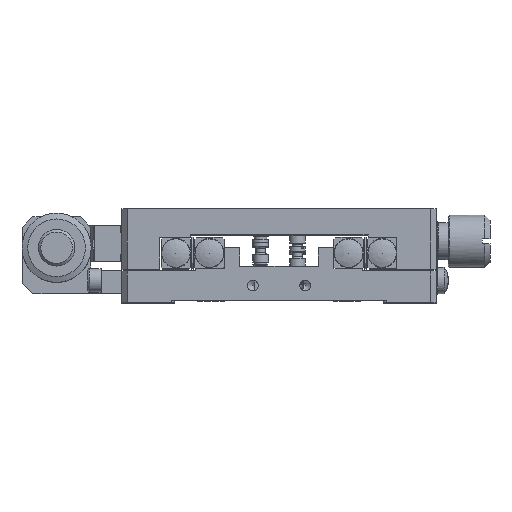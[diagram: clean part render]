
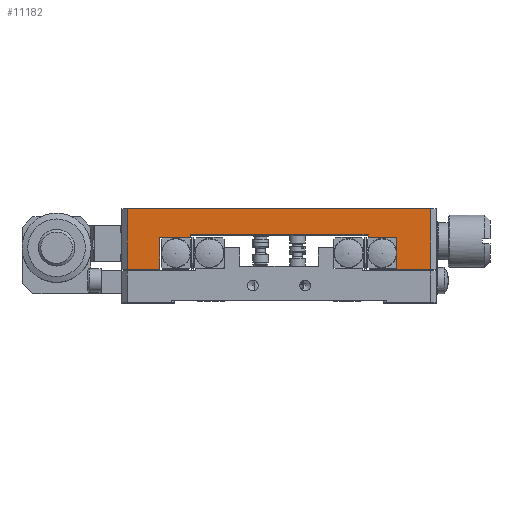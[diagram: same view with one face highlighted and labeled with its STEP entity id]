
A CAD part, top view. The second image highlights one B-rep face of the part: STEP entity #11182.
In plain terms, the highlighted planar face has unit normal (0, 0, 1).
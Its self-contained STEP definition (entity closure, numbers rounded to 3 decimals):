
#1265 = DIRECTION ( 'NONE',  ( -1., 0., 0. ) ) ;
#1424 = EDGE_CURVE ( 'NONE', #54770, #88109, #53383, .T. ) ;
#2008 = VERTEX_POINT ( 'NONE', #53607 ) ;
#2755 = DIRECTION ( 'NONE',  ( -1., 0., 0. ) ) ;
#2947 = VERTEX_POINT ( 'NONE', #25930 ) ;
#3375 = CARTESIAN_POINT ( 'NONE',  ( -46.862, 74.103, 68.814 ) ) ;
#4173 = EDGE_CURVE ( 'NONE', #7642, #2008, #12103, .T. ) ;
#4680 = CARTESIAN_POINT ( 'NONE',  ( -1.562, 74.103, 68.814 ) ) ;
#6482 = VECTOR ( 'NONE', #30464, 1000. ) ;
#7385 = LINE ( 'NONE', #76741, #37474 ) ;
#7642 = VERTEX_POINT ( 'NONE', #83108 ) ;
#8235 = EDGE_CURVE ( 'NONE', #48566, #38381, #78314, .T. ) ;
#9044 = EDGE_CURVE ( 'NONE', #2947, #17941, #50481, .T. ) ;
#9967 = ORIENTED_EDGE ( 'NONE', *, *, #83038, .T. ) ;
#11182 = ADVANCED_FACE ( 'NONE', ( #28735 ), #21521, .F. ) ;
#12103 = LINE ( 'NONE', #25190, #34819 ) ;
#14279 = ORIENTED_EDGE ( 'NONE', *, *, #86530, .T. ) ;
#14814 = DIRECTION ( 'NONE',  ( 0., -1., 0. ) ) ;
#15692 = VECTOR ( 'NONE', #72035, 1000. ) ;
#15970 = CARTESIAN_POINT ( 'NONE',  ( -41.062, 74.603, 68.814 ) ) ;
#17941 = VERTEX_POINT ( 'NONE', #78485 ) ;
#20236 = CARTESIAN_POINT ( 'NONE',  ( -7.062, 74.103, 68.814 ) ) ;
#21521 = PLANE ( 'NONE',  #38203 ) ;
#21591 = LINE ( 'NONE', #42822, #36122 ) ;
#21785 = EDGE_CURVE ( 'NONE', #83646, #36739, #60676, .T. ) ;
#22724 = EDGE_CURVE ( 'NONE', #83646, #7642, #71885, .T. ) ;
#25190 = CARTESIAN_POINT ( 'NONE',  ( -1.562, 68.003, 68.814 ) ) ;
#25930 = CARTESIAN_POINT ( 'NONE',  ( 4.938, 68.003, 68.814 ) ) ;
#27071 = VECTOR ( 'NONE', #38934, 1000. ) ;
#28735 = FACE_OUTER_BOUND ( 'NONE', #59503, .T. ) ;
#30464 = DIRECTION ( 'NONE',  ( 1., 0., 0. ) ) ;
#31393 = CARTESIAN_POINT ( 'NONE',  ( -7.062, 74.603, 68.814 ) ) ;
#31483 = ORIENTED_EDGE ( 'NONE', *, *, #48100, .T. ) ;
#33806 = ORIENTED_EDGE ( 'NONE', *, *, #84282, .F. ) ;
#34819 = VECTOR ( 'NONE', #39211, 1000. ) ;
#36122 = VECTOR ( 'NONE', #14814, 1000. ) ;
#36500 = CARTESIAN_POINT ( 'NONE',  ( -41.062, 74.103, 68.814 ) ) ;
#36739 = VERTEX_POINT ( 'NONE', #31393 ) ;
#36954 = LINE ( 'NONE', #36500, #15692 ) ;
#37474 = VECTOR ( 'NONE', #76303, 1000. ) ;
#37684 = CARTESIAN_POINT ( 'NONE',  ( -1.562, 74.103, 68.814 ) ) ;
#38203 = AXIS2_PLACEMENT_3D ( 'NONE', #57129, #50396, #1265 ) ;
#38381 = VERTEX_POINT ( 'NONE', #75234 ) ;
#38620 = ORIENTED_EDGE ( 'NONE', *, *, #82152, .F. ) ;
#38934 = DIRECTION ( 'NONE',  ( 1., 0., 0. ) ) ;
#39211 = DIRECTION ( 'NONE',  ( 0., -1., 0. ) ) ;
#39411 = DIRECTION ( 'NONE',  ( 1., 0., 0. ) ) ;
#40599 = VECTOR ( 'NONE', #2755, 1000. ) ;
#42820 = DIRECTION ( 'NONE',  ( 1., 0., 0. ) ) ;
#42822 = CARTESIAN_POINT ( 'NONE',  ( -46.862, 74.103, 68.814 ) ) ;
#45515 = VERTEX_POINT ( 'NONE', #60743 ) ;
#45701 = CARTESIAN_POINT ( 'NONE',  ( 5.938, 68.003, 68.814 ) ) ;
#46324 = DIRECTION ( 'NONE',  ( 0., 1., 0. ) ) ;
#48100 = EDGE_CURVE ( 'NONE', #2008, #2947, #73554, .T. ) ;
#48566 = VERTEX_POINT ( 'NONE', #79746 ) ;
#50396 = DIRECTION ( 'NONE',  ( 0., 0., -1. ) ) ;
#50481 = LINE ( 'NONE', #78777, #76875 ) ;
#50995 = LINE ( 'NONE', #77098, #40599 ) ;
#52468 = ORIENTED_EDGE ( 'NONE', *, *, #9044, .T. ) ;
#53343 = CARTESIAN_POINT ( 'NONE',  ( -41.062, 74.603, 68.814 ) ) ;
#53383 = LINE ( 'NONE', #4680, #84936 ) ;
#53607 = CARTESIAN_POINT ( 'NONE',  ( -1.562, 68.003, 68.814 ) ) ;
#54770 = VERTEX_POINT ( 'NONE', #3375 ) ;
#55368 = VECTOR ( 'NONE', #46324, 1000. ) ;
#57129 = CARTESIAN_POINT ( 'NONE',  ( -54.062, 79.603, 68.814 ) ) ;
#59503 = EDGE_LOOP ( 'NONE', ( #31483, #52468, #14279, #9967, #75086, #33806, #81587, #75030, #38620, #67186, #73207, #88035 ) ) ;
#60676 = LINE ( 'NONE', #82250, #55368 ) ;
#60743 = CARTESIAN_POINT ( 'NONE',  ( -53.062, 79.603, 68.814 ) ) ;
#63932 = CARTESIAN_POINT ( 'NONE',  ( -46.562, 68.003, 68.814 ) ) ;
#66820 = DIRECTION ( 'NONE',  ( -1., 0., 0. ) ) ;
#67186 = ORIENTED_EDGE ( 'NONE', *, *, #21785, .F. ) ;
#67944 = VERTEX_POINT ( 'NONE', #15970 ) ;
#71885 = LINE ( 'NONE', #37684, #6482 ) ;
#72035 = DIRECTION ( 'NONE',  ( 0., -1., 0. ) ) ;
#72559 = VECTOR ( 'NONE', #42820, 1000. ) ;
#73207 = ORIENTED_EDGE ( 'NONE', *, *, #22724, .T. ) ;
#73554 = LINE ( 'NONE', #45701, #27071 ) ;
#74890 = LINE ( 'NONE', #53343, #79080 ) ;
#75030 = ORIENTED_EDGE ( 'NONE', *, *, #87123, .F. ) ;
#75086 = ORIENTED_EDGE ( 'NONE', *, *, #8235, .T. ) ;
#75234 = CARTESIAN_POINT ( 'NONE',  ( -46.862, 68.003, 68.814 ) ) ;
#76303 = DIRECTION ( 'NONE',  ( 0., -1., 0. ) ) ;
#76741 = CARTESIAN_POINT ( 'NONE',  ( -53.062, 79.603, 68.814 ) ) ;
#76875 = VECTOR ( 'NONE', #83748, 1000. ) ;
#77098 = CARTESIAN_POINT ( 'NONE',  ( -54.062, 79.603, 68.814 ) ) ;
#78314 = LINE ( 'NONE', #63932, #72559 ) ;
#78485 = CARTESIAN_POINT ( 'NONE',  ( 4.938, 79.603, 68.814 ) ) ;
#78777 = CARTESIAN_POINT ( 'NONE',  ( 4.938, 79.603, 68.814 ) ) ;
#79080 = VECTOR ( 'NONE', #66820, 1000. ) ;
#79348 = CARTESIAN_POINT ( 'NONE',  ( -41.062, 74.103, 68.814 ) ) ;
#79746 = CARTESIAN_POINT ( 'NONE',  ( -53.062, 68.003, 68.814 ) ) ;
#81587 = ORIENTED_EDGE ( 'NONE', *, *, #1424, .T. ) ;
#82152 = EDGE_CURVE ( 'NONE', #36739, #67944, #74890, .T. ) ;
#82250 = CARTESIAN_POINT ( 'NONE',  ( -7.062, 74.103, 68.814 ) ) ;
#83038 = EDGE_CURVE ( 'NONE', #45515, #48566, #7385, .T. ) ;
#83108 = CARTESIAN_POINT ( 'NONE',  ( -1.562, 74.103, 68.814 ) ) ;
#83646 = VERTEX_POINT ( 'NONE', #20236 ) ;
#83748 = DIRECTION ( 'NONE',  ( 0., 1., 0. ) ) ;
#84282 = EDGE_CURVE ( 'NONE', #54770, #38381, #21591, .T. ) ;
#84936 = VECTOR ( 'NONE', #39411, 1000. ) ;
#86530 = EDGE_CURVE ( 'NONE', #17941, #45515, #50995, .T. ) ;
#87123 = EDGE_CURVE ( 'NONE', #67944, #88109, #36954, .T. ) ;
#88035 = ORIENTED_EDGE ( 'NONE', *, *, #4173, .T. ) ;
#88109 = VERTEX_POINT ( 'NONE', #79348 ) ;
